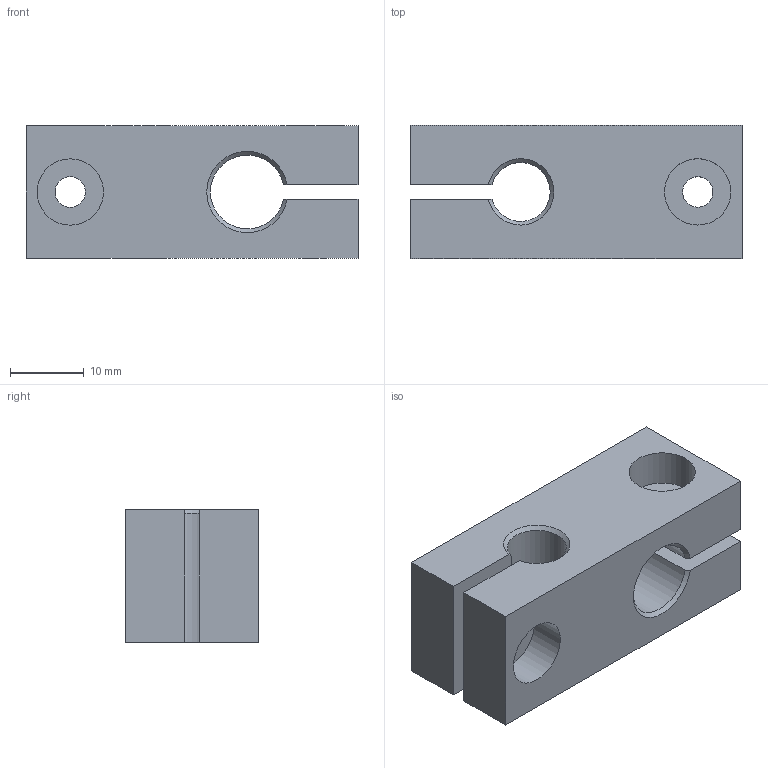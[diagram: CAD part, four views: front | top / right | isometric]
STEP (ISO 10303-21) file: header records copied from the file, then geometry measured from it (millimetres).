
FILE_DESCRIPTION(('FreeCAD Model'),'2;1');
FILE_NAME('Open CASCADE Shape Model','2021-05-04T13:40:03',('Author'),( ''),'Open CASCADE STEP processor 7.5','FreeCAD','Unknown');
FILE_SCHEMA(('AUTOMOTIVE_DESIGN { 1 0 10303 214 1 1 1 1 }'));
Length unit declared in the file: millimetre
Products named in the file (1): cross-clamp-8-8
Bounding box: 45 x 18 x 18 mm (x, y, z)
Volume: 10564.5 mm3; surface area: 5629.4 mm2
Topology: 1 solids, 1 shells, 24 faces, 62 edges, 42 vertices
Faces by surface type: plane 14, cylinder 8, cone 2
Full cylindrical faces by diameter (mm): 4.134 x4, 9 x2
Entity records: 1766 total; most frequent: CARTESIAN_POINT 311, DIRECTION 234, LINE 130, VECTOR 130, ORIENTED_EDGE 124, PCURVE 124, DEFINITIONAL_REPRESENTATION 124, EDGE_CURVE 62
